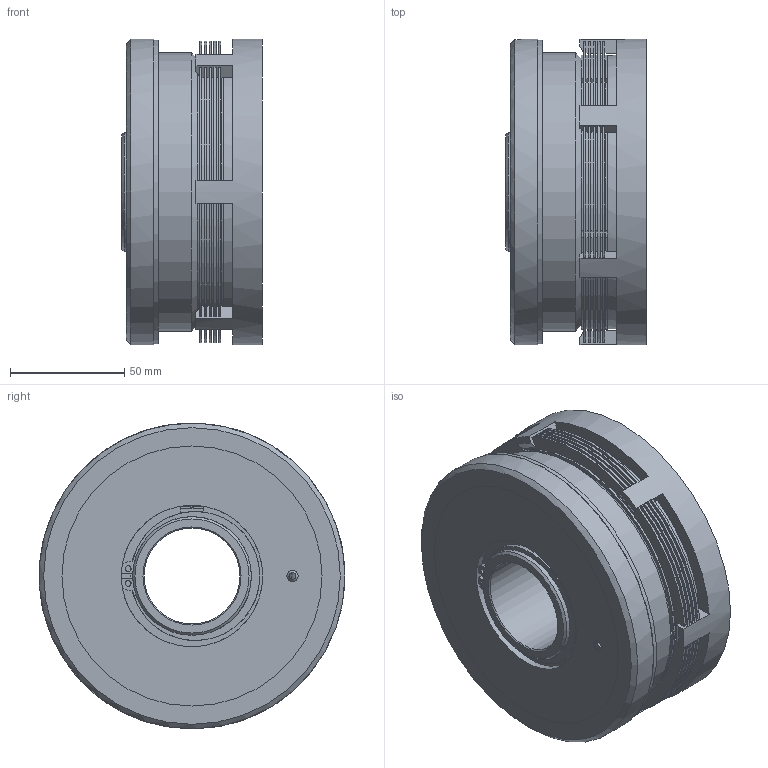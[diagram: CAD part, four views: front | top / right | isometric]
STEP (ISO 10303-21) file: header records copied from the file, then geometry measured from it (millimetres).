
FILE_DESCRIPTION(/* description */ (''),/* implementation_level */ '2;1');
FILE_NAME(/* name */ 'X:\INVENTOR\DISEGNI\05_Friz_Elettmag-Lam\05_03 EC_C\05_03_134_01 EC134_C\05_03_134_01 EC134_C@STEP.stp',/* time_stamp */ '2023-03-07T15:45:26+01:00',/* author */ ('alessio'),/* organization */ (''),/* preprocessor_version */ 'ST-DEVELOPER v18.1',/* originating_system */ 'Autodesk Inventor 2021',/* authorisation */ '');
FILE_SCHEMA (('AUTOMOTIVE_DESIGN { 1 0 10303 214 3 1 1 }'));
Products named in the file (1): 05_03_134_01 EC134_C
Bounding box: 61.5 x 134 x 134 mm (x, y, z)
Volume: 602073.3 mm3; surface area: 273628.1 mm2
Topology: 1 solids, 7 shells, 3578 faces, 14571 edges, 9366 vertices
Faces by surface type: bspline 1904, cylinder 888, plane 761, cone 17, torus 8
Full cylindrical faces by diameter (mm): 2.5 x2, 3 x1, 5 x2, 42 x2, 43 x1, 49 x1, 52 x3, 60 x1, 62 x1, 83 x2, 84 x1, 85 x1, 86 x1, 104 x1, 105 x2, 120 x1, 122 x2, 133.5 x1, 134 x2
Entity records: 225323 total; most frequent: CARTESIAN_POINT 121142, ORIENTED_EDGE 29142, EDGE_CURVE 14571, DIRECTION 12049, VERTEX_POINT 9366, B_SPLINE_CURVE_WITH_KNOTS 8752, AXIS2_PLACEMENT_3D 4571, EDGE_LOOP 4233
